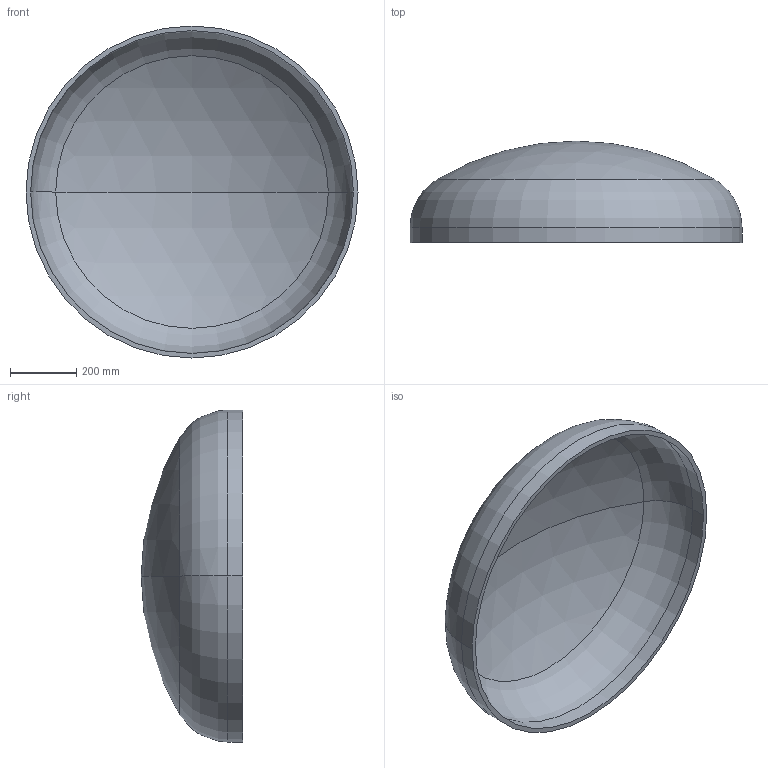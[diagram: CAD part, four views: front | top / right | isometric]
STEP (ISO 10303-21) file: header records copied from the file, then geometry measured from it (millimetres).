
FILE_DESCRIPTION (( 'STEP AP203' ), '1' );
FILE_NAME ('DIN 28013 Korbbogenform_-_Boden DIN 28013 - 1000 x 45 - I - s=14.step', '2016-07-01T08:42:53', ( '' ), ( '' ), 'SwSTEP 2.0', 'SolidWorks 2013', '' );
FILE_SCHEMA (( 'CONFIG_CONTROL_DESIGN' ));
Length unit declared in the file: millimetre
Products named in the file (1): DIN 28013 Korbbogenform_-_Boden DIN 28013 - 1000 x 45 - I - s=14
Bounding box: 1000 x 305.41 x 1000 mm (x, y, z)
Volume: 16920245 mm3; surface area: 2460954.1 mm2
Topology: 1 solids, 1 shells, 13 faces, 24 edges, 14 vertices
Faces by surface type: torus 4, cylinder 4, sphere 4, plane 1
Entity records: 407 total; most frequent: DIRECTION 72, CARTESIAN_POINT 52, ORIENTED_EDGE 48, AXIS2_PLACEMENT_3D 34, EDGE_CURVE 24, CIRCLE 20, VERTEX_POINT 14, EDGE_LOOP 14
